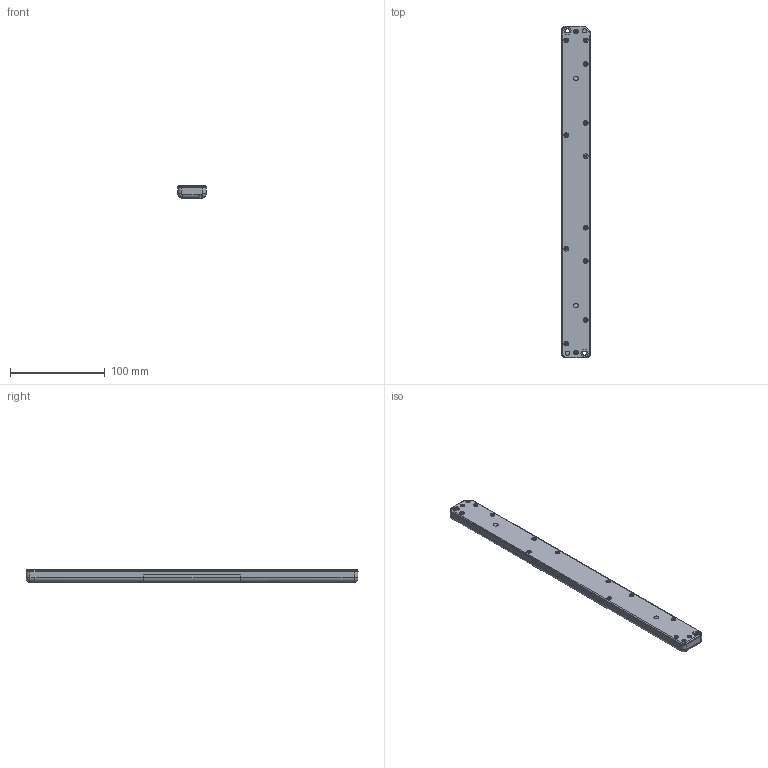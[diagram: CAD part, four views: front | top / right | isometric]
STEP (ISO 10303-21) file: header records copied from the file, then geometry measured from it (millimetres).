
FILE_DESCRIPTION(/* description */ (''),/* implementation_level */ '2;1');
FILE_NAME(/* name */ '1620.stp',/* time_stamp */ '2020-08-21T11:12:31+08:00',/* author */ (''),/* organization */ (''),/* preprocessor_version */ 'ST-DEVELOPER v16',/* originating_system */ 'SIEMENS PLM Software NX 10.0',/* authorisation */ '');
FILE_SCHEMA (('AP203_CONFIGURATION_CONTROLLED_3D_DESIGN_OF_MECHANICAL_PARTS_AND_ASSEMBLIES_MIM_LF { 1 0 10303 403 2 1 2}'));
Length unit declared in the file: millimetre
Products named in the file (1): Admi18DC5F57ze9b
Bounding box: 30 x 350 x 13 mm (x, y, z)
Volume: 49584.4 mm3; surface area: 64063.9 mm2
Topology: 4 solids, 4 shells, 931 faces, 2665 edges, 1787 vertices
Faces by surface type: plane 732, cylinder 152, bspline 31, cone 12, extrusion 4
Full cylindrical faces by diameter (mm): 1.5 x13, 2.1 x12, 2.4 x12, 4.4 x4, 4.5 x2, 4.9 x12, 7.617 x31
Entity records: 31048 total; most frequent: CARTESIAN_POINT 7238, ORIENTED_EDGE 4976, DIRECTION 4680, EDGE_CURVE 2488, VECTOR 1766, LINE 1762, VERTEX_POINT 1699, AXIS2_PLACEMENT_3D 1457
